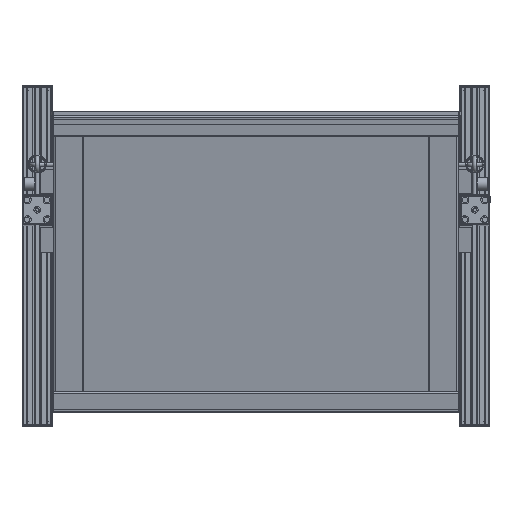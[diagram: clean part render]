
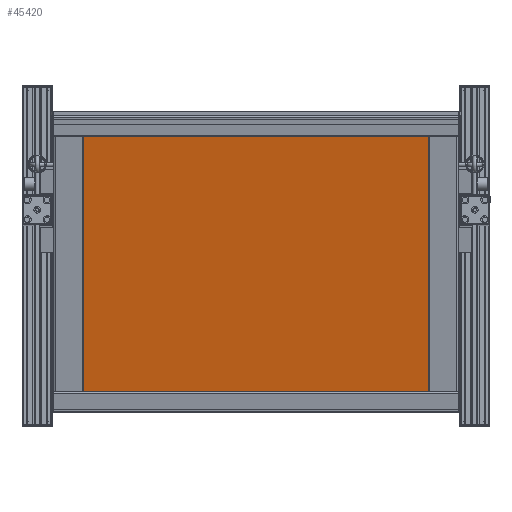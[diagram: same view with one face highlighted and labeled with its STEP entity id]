
A CAD part, top view. The second image highlights one B-rep face of the part: STEP entity #45420.
In plain terms, the highlighted planar face has unit normal (0, -0.208, 0.978).
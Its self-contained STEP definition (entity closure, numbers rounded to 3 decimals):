
#45290=CARTESIAN_POINT('',(680.401,1111.232,987.694));
#45291=VERTEX_POINT('',#45290);
#45292=CARTESIAN_POINT('',(680.401,709.213,902.242));
#45293=VERTEX_POINT('',#45292);
#45294=CARTESIAN_POINT('',(680.401,1111.232,987.694));
#45295=DIRECTION('',(0.0,-0.978,-0.208));
#45296=VECTOR('',#45295,411.);
#45297=LINE('',#45294,#45296);
#45298=EDGE_CURVE('',#45291,#45293,#45297,.T.);
#45330=CARTESIAN_POINT('',(145.401,709.213,902.242));
#45331=VERTEX_POINT('',#45330);
#45332=CARTESIAN_POINT('',(680.401,709.213,902.242));
#45333=DIRECTION('',(-1.0,0.0,0.0));
#45334=VECTOR('',#45333,535.);
#45335=LINE('',#45332,#45334);
#45336=EDGE_CURVE('',#45293,#45331,#45335,.T.);
#45361=CARTESIAN_POINT('',(145.401,1111.232,987.694));
#45362=VERTEX_POINT('',#45361);
#45363=CARTESIAN_POINT('',(145.401,709.213,902.242));
#45364=DIRECTION('',(0.,0.978,0.208));
#45365=VECTOR('',#45364,411.);
#45366=LINE('',#45363,#45365);
#45367=EDGE_CURVE('',#45331,#45362,#45366,.T.);
#45392=CARTESIAN_POINT('',(145.401,1111.232,987.694));
#45393=DIRECTION('',(1.0,0.0,0.0));
#45394=VECTOR('',#45393,535.);
#45395=LINE('',#45392,#45394);
#45396=EDGE_CURVE('',#45362,#45291,#45395,.T.);
#45409=CARTESIAN_POINT('',(412.901,910.222,944.968));
#45410=DIRECTION('',(0.,-0.208,0.978));
#45411=DIRECTION('',(1.0,0.0,0.0));
#45412=AXIS2_PLACEMENT_3D('',#45409,#45410,#45411);
#45413=PLANE('',#45412);
#45414=ORIENTED_EDGE('',*,*,#45298,.F.);
#45415=ORIENTED_EDGE('',*,*,#45396,.F.);
#45416=ORIENTED_EDGE('',*,*,#45367,.F.);
#45417=ORIENTED_EDGE('',*,*,#45336,.F.);
#45418=EDGE_LOOP('',(#45414,#45415,#45416,#45417));
#45419=FACE_OUTER_BOUND('',#45418,.T.);
#45420=ADVANCED_FACE('',(#45419),#45413,.T.);
